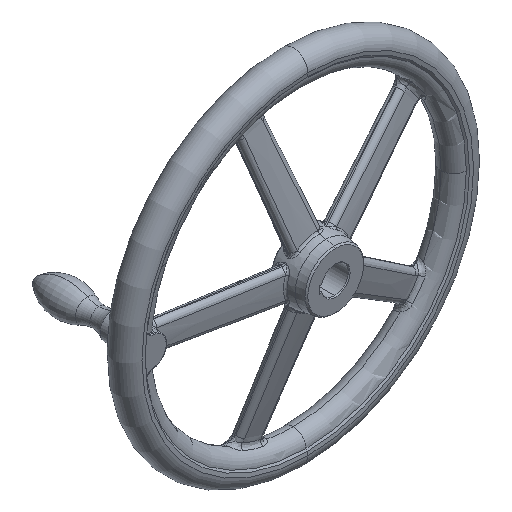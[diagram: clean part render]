
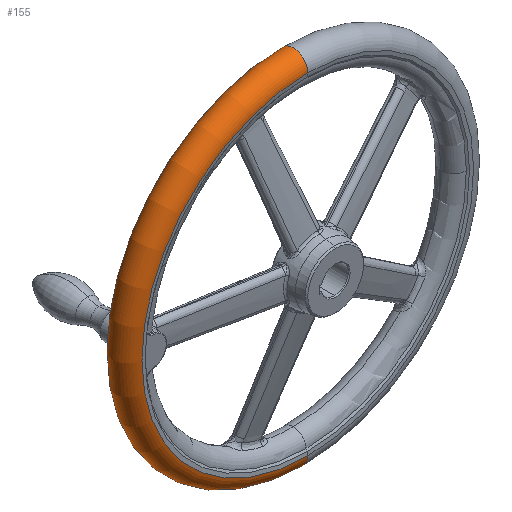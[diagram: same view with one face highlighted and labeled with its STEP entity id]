
A CAD part, isometric view. The second image highlights one B-rep face of the part: STEP entity #155.
In plain terms, the highlighted toroidal (fillet/blend) face has major radius 184 mm and minor radius 16 mm.
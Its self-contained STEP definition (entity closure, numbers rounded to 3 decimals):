
#10 = EDGE_LOOP ( 'NONE', ( #123, #264, #133, #135 ) ) ;
#123 = ORIENTED_EDGE ( 'NONE', *, *, #31334, .F. ) ;
#133 = ORIENTED_EDGE ( 'NONE', *, *, #31340, .T. ) ;
#135 = ORIENTED_EDGE ( 'NONE', *, *, #32037, .F. ) ;
#155 = ADVANCED_FACE ( 'NONE', ( #32170 ), #32152, .T. ) ;
#264 = ORIENTED_EDGE ( 'NONE', *, *, #731, .T. ) ;
#542 = VERTEX_POINT ( 'NONE', #33233 ) ;
#731 = EDGE_CURVE ( 'NONE', #750, #542, #33403, .T. ) ;
#750 = VERTEX_POINT ( 'NONE', #33319 ) ;
#22518 = CIRCLE ( 'NONE', #22548, 16. ) ;
#22546 = DIRECTION ( 'NONE',  ( 0., 0., -1. ) ) ;
#22547 = DIRECTION ( 'NONE',  ( 1., 0., 0. ) ) ;
#22548 = AXIS2_PLACEMENT_3D ( 'NONE', #22554, #22547, #22546 ) ;
#22554 = CARTESIAN_POINT ( 'NONE',  ( 0., 47., 184. ) ) ;
#23071 = DIRECTION ( 'NONE',  ( 0., 0., 1. ) ) ;
#23072 = DIRECTION ( 'NONE',  ( -1., 0., 0. ) ) ;
#23073 = CARTESIAN_POINT ( 'NONE',  ( 0., 47., -184. ) ) ;
#23074 = AXIS2_PLACEMENT_3D ( 'NONE', #23073, #23072, #23071 ) ;
#23075 = CIRCLE ( 'NONE', #23074, 16. ) ;
#28273 = CARTESIAN_POINT ( 'NONE',  ( 0., 31., 184. ) ) ;
#28278 = CARTESIAN_POINT ( 'NONE',  ( 0., 31., -184. ) ) ;
#28279 = CIRCLE ( 'NONE', #28305, 184. ) ;
#28303 = DIRECTION ( 'NONE',  ( 0., 0., -1. ) ) ;
#28304 = DIRECTION ( 'NONE',  ( 0., -1., 0. ) ) ;
#28305 = AXIS2_PLACEMENT_3D ( 'NONE', #28332, #28304, #28303 ) ;
#28332 = CARTESIAN_POINT ( 'NONE',  ( 0., 31., 0. ) ) ;
#31334 = EDGE_CURVE ( 'NONE', #750, #32034, #22518, .T. ) ;
#31340 = EDGE_CURVE ( 'NONE', #542, #32033, #23075, .T. ) ;
#32033 = VERTEX_POINT ( 'NONE', #28278 ) ;
#32034 = VERTEX_POINT ( 'NONE', #28273 ) ;
#32037 = EDGE_CURVE ( 'NONE', #32034, #32033, #28279, .T. ) ;
#32152 = TOROIDAL_SURFACE ( 'NONE', #32196, 184., 16. ) ;
#32170 = FACE_OUTER_BOUND ( 'NONE', #10, .T. ) ;
#32171 = DIRECTION ( 'NONE',  ( 0., -1., 0. ) ) ;
#32172 = CARTESIAN_POINT ( 'NONE',  ( 0., 47., 0. ) ) ;
#32196 = AXIS2_PLACEMENT_3D ( 'NONE', #32172, #32171, #32226 ) ;
#32226 = DIRECTION ( 'NONE',  ( 0., 0., -1. ) ) ;
#33233 = CARTESIAN_POINT ( 'NONE',  ( 0., 63., -184. ) ) ;
#33319 = CARTESIAN_POINT ( 'NONE',  ( 0., 63., 184. ) ) ;
#33385 = DIRECTION ( 'NONE',  ( 0., 0., -1. ) ) ;
#33386 = DIRECTION ( 'NONE',  ( 0., -1., 0. ) ) ;
#33387 = AXIS2_PLACEMENT_3D ( 'NONE', #33390, #33386, #33385 ) ;
#33390 = CARTESIAN_POINT ( 'NONE',  ( 0., 63., 0. ) ) ;
#33403 = CIRCLE ( 'NONE', #33387, 184. ) ;
